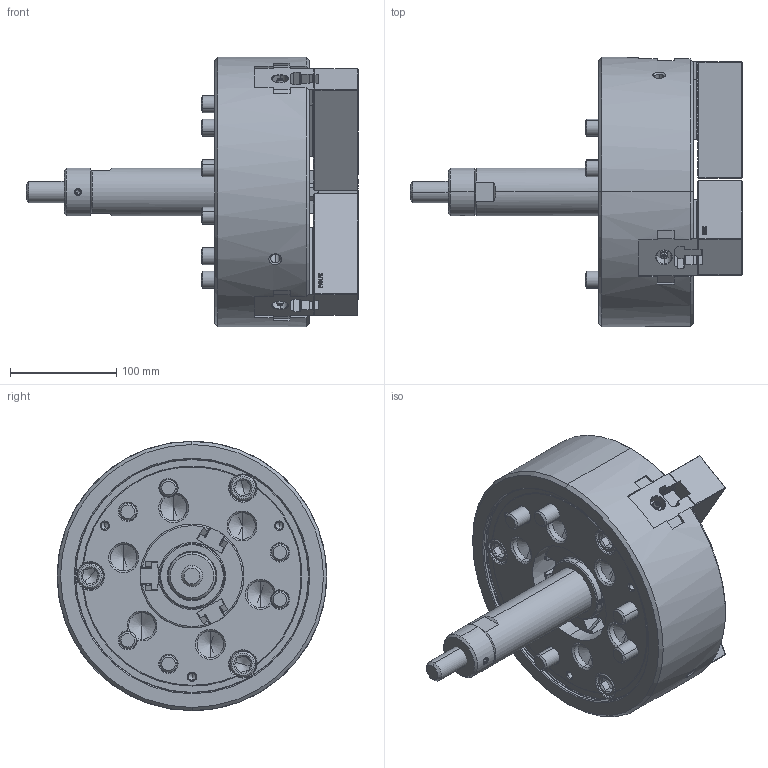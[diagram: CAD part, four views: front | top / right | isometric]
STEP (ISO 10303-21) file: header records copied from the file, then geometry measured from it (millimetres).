
FILE_DESCRIPTION (( 'STEP AP214' ), '1' );
FILE_NAME ('DT1_NL10_OUTSIDE_VIEW_HCL.STEP', '2026-03-19T06:28:38', ( '' ), ( '' ), 'SwSTEP 2.0', 'SolidWorks 2022', '' );
FILE_SCHEMA (( 'AUTOMOTIVE_DESIGN' ));
Length unit declared in the file: millimetre
Products named in the file (11): DT1_NL10_M12x35^DT1_NL10; DT1_NL10_DRAWSCREW^DT1_NL10; DT1_NL10_COVER^DT1_NL10; DT1_NL10_M16x85^DT1_NL10; DT1_NL10_M5x12^DT1_NL10; DT1_NL10_OUTSIDE_VIEW_HCL; DT1_NL10_TNUT^DT1_NL10; DT1_NL10_SOFTJAW^DT1_NL10; DT1_NL10_DN^DT1_NL10; DT1_NL10_BASE^DT1_NL10; Copy of 61P335751^DT1_NL10
Assembly tree (26 placements, depth 2):
  DT1_NL10_OUTSIDE_VIEW_HCL
    DT1_NL10_SOFTJAW^DT1_NL10  x3
    DT1_NL10_TNUT^DT1_NL10  x3
    DT1_NL10_COVER^DT1_NL10
    DT1_NL10_DRAWSCREW^DT1_NL10
    Copy of 61P335751^DT1_NL10
    DT1_NL10_M16x85^DT1_NL10  x6
    DT1_NL10_M12x35^DT1_NL10  x6
    DT1_NL10_M5x12^DT1_NL10  x3
    DT1_NL10_DN^DT1_NL10
    DT1_NL10_BASE^DT1_NL10
Bounding box: 313 x 254 x 254 mm (x, y, z)
Volume: 4757759.8 mm3; surface area: 507996.4 mm2
Topology: 26 solids, 28 shells, 5477 faces, 15573 edges, 10214 vertices
Faces by surface type: plane 3246, cylinder 1481, cone 433, bspline 242, torus 69, sphere 6
Entity records: 117996 total; most frequent: CARTESIAN_POINT 32931, ORIENTED_EDGE 19358, DIRECTION 15263, EDGE_CURVE 9679, LINE 6795, VECTOR 6795, VERTEX_POINT 6354, AXIS2_PLACEMENT_3D 4234
